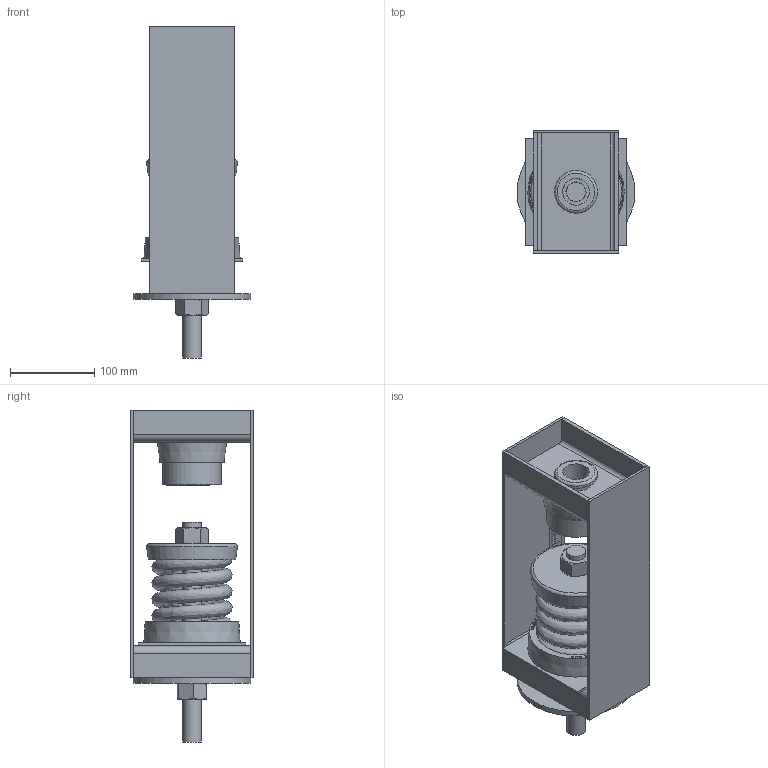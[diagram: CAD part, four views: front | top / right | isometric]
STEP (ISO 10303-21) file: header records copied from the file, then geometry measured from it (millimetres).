
FILE_DESCRIPTION((''),'2;1');
FILE_NAME('C:\2012_Work\Designs\HANGER BOXES\30N\PC30N-D-2150.stp','2013-10-16T11:44:39',('KShiels'),(''),'Autodesk Inventor 2012','Autodesk Inventor 2012','');
FILE_SCHEMA(('AUTOMOTIVE_DESIGN { 1 0 10303 214 1 1 1 1 }'));
Length unit declared in the file: inch
Products named in the file (20): PC30N-D-2150; 30N-D-2150 pc; A-15145-7 30N-D WOS; A15145-7 A(.125x4x12; A-15145-7 D .125x4; A-20470-6R HDCS ELEMENT; A-20470-6C; A-20470-6B; A-20470-6A; A-15143-2R LDA HANGER CUP 3; A-15143-2R HANGER CUP 3; A-15143-2R WASHER 3; A-12865 SPRING CASTING HANGER TOP CUP 3; A-15145-7_B TOP FORMED CHANNEL; A-15145-7_C BOTTOM FORMED CHANNEL; SPRING 30-2150  pc (PURPLE); THREADED ROD 0.875-9 10.25in LONG; Hex Nut - Inch 7/8 - 9; A-31346-1 STEEL DISC; PC SCALE
Assembly tree (21 placements, depth 5):
  PC30N-D-2150
    30N-D-2150 pc
      A-15145-7 30N-D WOS
        A15145-7 A(.125x4x12  x2
        A-15145-7 D .125x4
        A-20470-6R HDCS ELEMENT
          A-20470-6C
          A-20470-6B
          A-20470-6A
        A-15143-2R LDA HANGER CUP 3
          A-15143-2R HANGER CUP 3
          A-15143-2R WASHER 3
        A-12865 SPRING CASTING HANGER TOP CUP 3
        A-15145-7_B TOP FORMED CHANNEL
        A-15145-7_C BOTTOM FORMED CHANNEL
      SPRING 30-2150  pc (PURPLE)
    THREADED ROD 0.875-9 10.25in LONG
    Hex Nut - Inch 7/8 - 9  x2
    A-31346-1 STEEL DISC
    PC SCALE
Bounding box: 139.7 x 146.05 x 393.7 mm (x, y, z)
Volume: 1318249.6 mm3; surface area: 518494.2 mm2
Topology: 17 solids, 17 shells, 1316 faces, 3341 edges, 2208 vertices
Faces by surface type: plane 892, bspline 334, cylinder 55, cone 33, torus 2
Full cylindrical faces by diameter (mm): 19.05 x1, 19.177 x2, 22.225 x1, 23.813 x1, 25.4 x1, 31.75 x1, 31.996 x1, 34.925 x1, 36.8 x1, 38.1 x2, 50.8 x1, 60.325 x1, 63.5 x3, 66.675 x2, 69.85 x4, 74.613 x1, 74.9 x1, 94.456 x1, 97.631 x1, 101.6 x2, 139.7 x1
Entity records: 43754 total; most frequent: CARTESIAN_POINT 14334, ORIENTED_EDGE 6472, DIRECTION 4665, EDGE_CURVE 3236, VECTOR 2407, LINE 2407, VERTEX_POINT 2166, EDGE_LOOP 1496
